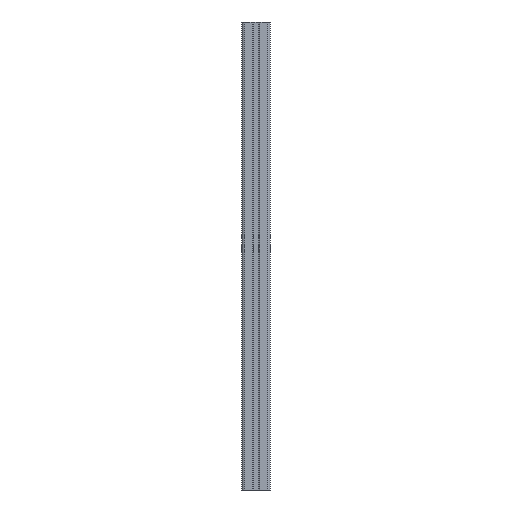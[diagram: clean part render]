
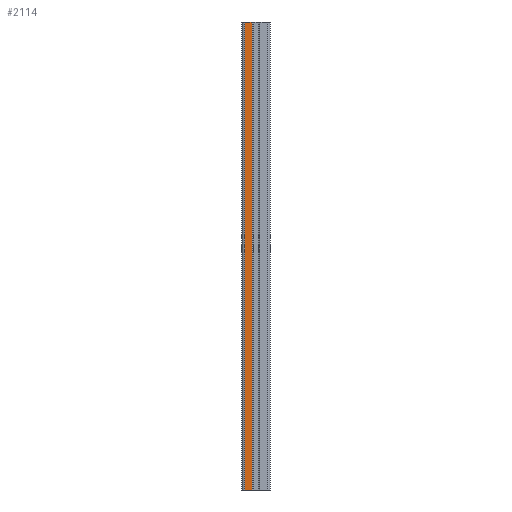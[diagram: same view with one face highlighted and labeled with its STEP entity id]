
A CAD part, left-side view. The second image highlights one B-rep face of the part: STEP entity #2114.
In plain terms, the highlighted planar face has unit normal (-1, 0, 0).
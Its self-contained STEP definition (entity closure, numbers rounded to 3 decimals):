
#924 = VERTEX_POINT ( 'NONE', #3101 ) ;
#1069 = EDGE_CURVE ( 'NONE', #924, #1070, #3423, .T. ) ;
#1070 = VERTEX_POINT ( 'NONE', #3424 ) ;
#1568 = EDGE_CURVE ( 'NONE', #1641, #1678, #4220, .T. ) ;
#1641 = VERTEX_POINT ( 'NONE', #4306 ) ;
#1678 = VERTEX_POINT ( 'NONE', #4482 ) ;
#1939 = ORIENTED_EDGE ( 'NONE', *, *, #1568, .T. ) ;
#2048 = ORIENTED_EDGE ( 'NONE', *, *, #2115, .F. ) ;
#2051 = ORIENTED_EDGE ( 'NONE', *, *, #2135, .T. ) ;
#2111 = EDGE_LOOP ( 'NONE', ( #1939, #2048, #2112, #2051 ) ) ;
#2112 = ORIENTED_EDGE ( 'NONE', *, *, #1069, .F. ) ;
#2114 = ADVANCED_FACE ( 'NONE', ( #4842 ), #4846, .F. ) ;
#2115 = EDGE_CURVE ( 'NONE', #1070, #1678, #4824, .T. ) ;
#2135 = EDGE_CURVE ( 'NONE', #924, #1641, #4863, .T. ) ;
#3101 = CARTESIAN_POINT ( 'NONE',  ( -14588.479, -12103.474, 500. ) ) ;
#3421 = DIRECTION ( 'NONE',  ( 0., -1., 0. ) ) ;
#3422 = VECTOR ( 'NONE', #3421, 1000. ) ;
#3423 = LINE ( 'NONE', #3425, #3422 ) ;
#3424 = CARTESIAN_POINT ( 'NONE',  ( -14588.479, -12111.299, 500. ) ) ;
#3425 = CARTESIAN_POINT ( 'NONE',  ( -14588.479, -12103.474, 500. ) ) ;
#4220 = LINE ( 'NONE', #4400, #4391 ) ;
#4306 = CARTESIAN_POINT ( 'NONE',  ( -14588.479, -12103.474, 0. ) ) ;
#4391 = VECTOR ( 'NONE', #4399, 1000. ) ;
#4399 = DIRECTION ( 'NONE',  ( 0., -1., 0. ) ) ;
#4400 = CARTESIAN_POINT ( 'NONE',  ( -14588.479, -12103.474, 0. ) ) ;
#4482 = CARTESIAN_POINT ( 'NONE',  ( -14588.479, -12111.299, 0. ) ) ;
#4822 = DIRECTION ( 'NONE',  ( 0., 0., -1. ) ) ;
#4823 = VECTOR ( 'NONE', #4822, 1000. ) ;
#4824 = LINE ( 'NONE', #4829, #4823 ) ;
#4826 = DIRECTION ( 'NONE',  ( 0., 0., -1. ) ) ;
#4827 = DIRECTION ( 'NONE',  ( 1., 0., 0. ) ) ;
#4829 = CARTESIAN_POINT ( 'NONE',  ( -14588.479, -12111.299, 500. ) ) ;
#4831 = AXIS2_PLACEMENT_3D ( 'NONE', #4833, #4827, #4826 ) ;
#4833 = CARTESIAN_POINT ( 'NONE',  ( -14588.479, -12103.474, 500. ) ) ;
#4842 = FACE_OUTER_BOUND ( 'NONE', #2111, .T. ) ;
#4846 = PLANE ( 'NONE',  #4831 ) ;
#4862 = VECTOR ( 'NONE', #4869, 1000. ) ;
#4863 = LINE ( 'NONE', #4867, #4862 ) ;
#4867 = CARTESIAN_POINT ( 'NONE',  ( -14588.479, -12103.474, 500. ) ) ;
#4869 = DIRECTION ( 'NONE',  ( 0., 0., -1. ) ) ;
